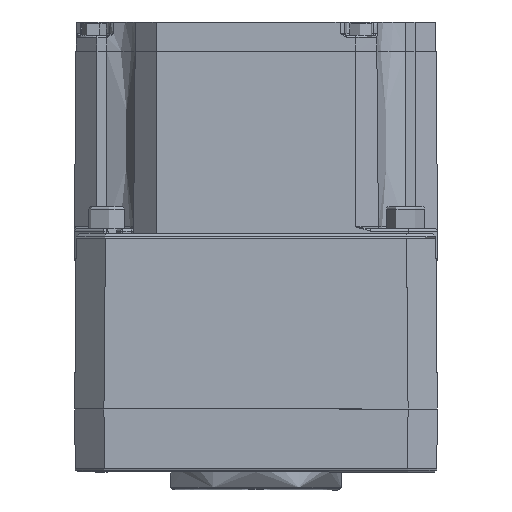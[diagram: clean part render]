
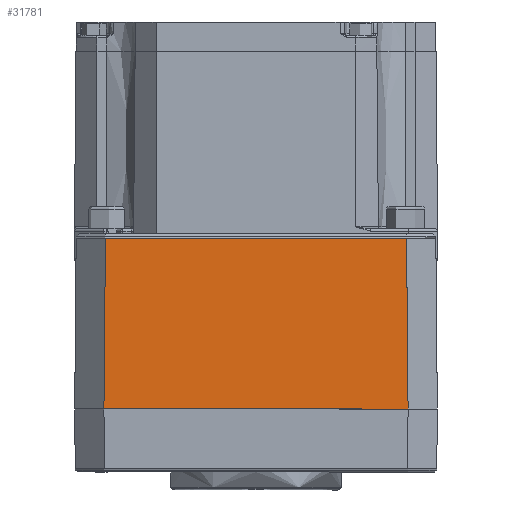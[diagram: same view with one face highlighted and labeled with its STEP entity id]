
A CAD part, front view. The second image highlights one B-rep face of the part: STEP entity #31781.
In plain terms, the highlighted planar face has unit normal (0, -1, 0.009) as drawn and (0, 1, 0.009) by its records, which use the part's own axes.
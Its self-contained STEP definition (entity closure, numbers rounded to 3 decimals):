
#148 = ORIENTED_EDGE ( 'NONE', *, *, #46320, .T. ) ;
#7086 = CARTESIAN_POINT ( 'NONE',  ( 33.793, 40.292, -15.75 ) ) ;
#7322 = CARTESIAN_POINT ( 'NONE',  ( 0., 40., 17.75 ) ) ;
#9685 = CARTESIAN_POINT ( 'NONE',  ( -33.459, 39.961, 22.242 ) ) ;
#11469 = CARTESIAN_POINT ( 'NONE',  ( -33.793, 40.292, -15.75 ) ) ;
#12110 = CARTESIAN_POINT ( 'NONE',  ( 33.682, 40.182, -3.086 ) ) ;
#13060 = EDGE_CURVE ( 'NONE', #57660, #16491, #78438, .T. ) ;
#14780 = ORIENTED_EDGE ( 'NONE', *, *, #68406, .F. ) ;
#16491 = VERTEX_POINT ( 'NONE', #11469 ) ;
#18503 = CARTESIAN_POINT ( 'NONE',  ( 33.461, 39.961, 22.242 ) ) ;
#30691 = LINE ( 'NONE', #59062, #31347 ) ;
#31015 = VERTEX_POINT ( 'NONE', #9685 ) ;
#31347 = VECTOR ( 'NONE', #52208, 1000. ) ;
#31781 = ADVANCED_FACE ( 'NONE', ( #37647 ), #36204, .T. ) ;
#34145 = CARTESIAN_POINT ( 'NONE',  ( 33.793, 40.292, -15.75 ) ) ;
#35699 = CARTESIAN_POINT ( 'NONE',  ( 0., 39.961, 22.242 ) ) ;
#36204 = PLANE ( 'NONE',  #61250 ) ;
#37647 = FACE_OUTER_BOUND ( 'NONE', #94890, .T. ) ;
#43248 = B_SPLINE_CURVE_WITH_KNOTS ( 'NONE', 3,
 ( #34145, #12110, #47322, #48776 ),
 .UNSPECIFIED., .F., .F.,
 ( 4, 4 ),
 ( 0.019, 1. ),
 .UNSPECIFIED. ) ;
#44462 = ORIENTED_EDGE ( 'NONE', *, *, #13060, .T. ) ;
#45435 = DIRECTION ( 'NONE',  ( 0., 1., 0.009 ) ) ;
#46320 = EDGE_CURVE ( 'NONE', #31015, #56927, #94967, .T. ) ;
#47322 = CARTESIAN_POINT ( 'NONE',  ( 33.572, 40.071, 9.578 ) ) ;
#48179 = ORIENTED_EDGE ( 'NONE', *, *, #76677, .T. ) ;
#48776 = CARTESIAN_POINT ( 'NONE',  ( 33.461, 39.961, 22.242 ) ) ;
#52208 = DIRECTION ( 'NONE',  ( 0.009, -0.009, 1. ) ) ;
#56924 = VECTOR ( 'NONE', #74376, 1000. ) ;
#56927 = VERTEX_POINT ( 'NONE', #18503 ) ;
#57660 = VERTEX_POINT ( 'NONE', #7086 ) ;
#59062 = CARTESIAN_POINT ( 'NONE',  ( -33.799, 40.299, -16.5 ) ) ;
#60613 = DIRECTION ( 'NONE',  ( 0., -0.009, 1. ) ) ;
#61250 = AXIS2_PLACEMENT_3D ( 'NONE', #7322, #45435, #60613 ) ;
#68406 = EDGE_CURVE ( 'NONE', #57660, #56927, #43248, .T. ) ;
#70531 = VECTOR ( 'NONE', #79424, 1000. ) ;
#74376 = DIRECTION ( 'NONE',  ( 1., 0., 0. ) ) ;
#76677 = EDGE_CURVE ( 'NONE', #16491, #31015, #30691, .T. ) ;
#78438 = LINE ( 'NONE', #85808, #70531 ) ;
#79424 = DIRECTION ( 'NONE',  ( -1., 0., 0. ) ) ;
#85808 = CARTESIAN_POINT ( 'NONE',  ( 0., 40.292, -15.75 ) ) ;
#94890 = EDGE_LOOP ( 'NONE', ( #14780, #44462, #48179, #148 ) ) ;
#94967 = LINE ( 'NONE', #35699, #56924 ) ;
